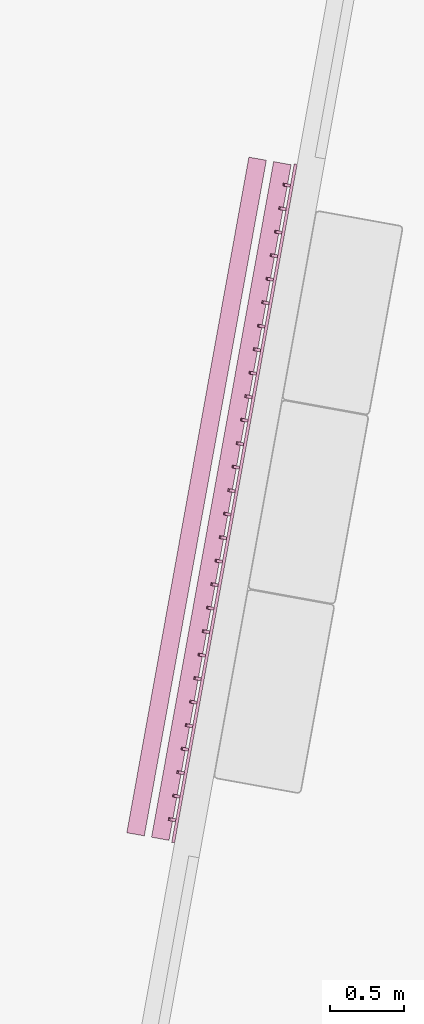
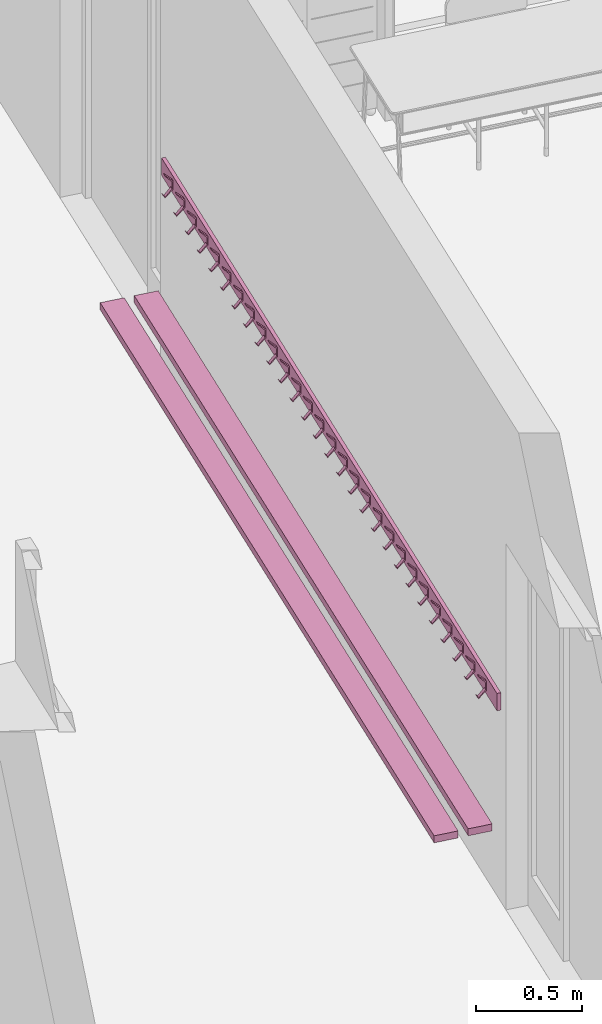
# One storey, part 6 of 79: 2 furnishings.
"""IFC2X3 building model written with IfcOpenShell, lengths in metres."""

from ifc_helpers import new_model, entity, si_unit, converted_unit, derived_unit, money_unit, direction, frame, origin_with_axes, place, context, subcontext, project, spatial, faceted_brep, source, transform, mapped, material, type_object, element, save


model = new_model("IFC2X3")

# Units and contexts
model_context = context("Model", 3, precision=1e-05, world=origin_with_axes(), true_north=direction((0.0, 1.0)))
body_context = subcontext(model_context, "Body", "Model", "MODEL_VIEW")
ifc_project = project(units=[si_unit("LENGTHUNIT", "METRE"), si_unit("AREAUNIT", "SQUARE_METRE"), si_unit("VOLUMEUNIT", "CUBIC_METRE"), converted_unit("PLANEANGLEUNIT", "DEGREE", entity("IfcPlaneAngleMeasure", 0.0174532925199), si_unit("PLANEANGLEUNIT", "RADIAN"), dimensions=[0, 0, 0, 0, 0, 0, 0]), money_unit("CHF"), converted_unit("TIMEUNIT", "Year", entity("IfcTimeMeasure", 31556926.0), si_unit("TIMEUNIT", "SECOND"), dimensions=[0, 0, 1, 0, 0, 0, 0]), si_unit("MASSUNIT", "GRAM", prefix="KILO"), si_unit("THERMODYNAMICTEMPERATUREUNIT", "DEGREE_CELSIUS"), si_unit("LUMINOUSINTENSITYUNIT", "LUMEN"), si_unit("ENERGYUNIT", "JOULE", prefix="MEGA"), derived_unit("THERMALCONDUCTANCEUNIT", [(si_unit("POWERUNIT", "WATT"), 1), (si_unit("LENGTHUNIT", "METRE"), -1), (si_unit("THERMODYNAMICTEMPERATUREUNIT", "KELVIN"), -1)]), derived_unit("SPECIFICHEATCAPACITYUNIT", [(si_unit("ENERGYUNIT", "JOULE"), 1), (si_unit("MASSUNIT", "GRAM", prefix="KILO"), -1), (si_unit("THERMODYNAMICTEMPERATUREUNIT", "KELVIN"), -1)]), derived_unit("MASSDENSITYUNIT", [(si_unit("MASSUNIT", "GRAM", prefix="KILO"), 1), (si_unit("VOLUMEUNIT", "CUBIC_METRE"), -1)])], contexts=[model_context])

# Site, building, storey
site_placement = place(None, frame((0.0, 0.0, 0.0), z_axis=(0.0, 0.0, 1.0), x_axis=(-0.177771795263, -0.984071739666, 0.0)))
site = spatial("IfcSite", under=ifc_project, at=site_placement, Name="Site", CompositionType="ELEMENT")
building_placement = place(site_placement, origin_with_axes())
building = spatial("IfcBuilding", under=site, at=building_placement, Name="Bâtiment", CompositionType="ELEMENT")
storey_placement = place(building_placement, origin_with_axes())
storey = spatial("IfcBuildingStorey", under=building, at=storey_placement, Name="RDC", CompositionType="ELEMENT", Elevation=0.0)

# Furnishings
ifc_material_1 = material(Name="Matériau de construction IFC")
furnishing_element_type_1 = type_object("IfcFurnishingElementType", Name="Râtelier mural 21")
shared_shape_1 = source(origin_with_axes(), body_context, "Body", "Brep", [
    faceted_brep([(-2.33000000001, 0.0, 0.0), (2.33000000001, 0.0, 0.0), (2.33000000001, -0.02, 0.0), (-2.33000000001, -0.02, 0.0), (-2.33000000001, 0.0, 0.1), (2.33000000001, 0.0, 0.1), (2.33000000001, -0.02, 0.1), (-2.33000000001, -0.02, 0.1)], [[[0, 1, 2, 3]], [[1, 0, 4, 5]], [[2, 1, 5, 6]], [[3, 2, 6, 7]], [[0, 3, 7, 4]], [[5, 4, 7, 6]]]),
    faceted_brep([(2.16862068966, -0.06, -0.015), (2.16862068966, -0.02, 0.025), (2.18862068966, -0.02, 0.025), (2.18862068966, -0.06, -0.015), (2.16862068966, -0.07, 0.0), (2.16862068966, -0.0675, 0.0), (2.16862068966, -0.06, -0.01), (2.16862068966, -0.025, 0.03), (2.16862068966, -0.025, 0.07), (2.16862068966, -0.06, 0.11), (2.16862068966, -0.06, 0.115), (2.16862068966, -0.02, 0.075), (2.18862068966, -0.02, 0.075), (2.18862068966, -0.06, 0.115), (2.18862068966, -0.06, 0.11), (2.18862068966, -0.025, 0.07), (2.18862068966, -0.025, 0.03), (2.18862068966, -0.06, -0.01), (2.18862068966, -0.0675, 0.0), (2.18862068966, -0.07, 0.0)], [[[0, 1, 2, 3]], [[0, 4, 5, 6, 7, 8, 9, 10, 11, 1]], [[1, 11, 12, 2]], [[3, 2, 12, 13, 14, 15, 16, 17, 18, 19]], [[4, 0, 3, 19]], [[5, 4, 19, 18]], [[6, 5, 18, 17]], [[7, 6, 17, 16]], [[8, 7, 16, 15]], [[9, 8, 15, 14]], [[10, 9, 14, 13]], [[11, 10, 13, 12]]]),
    faceted_brep([(2.00724137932, -0.06, -0.015), (2.00724137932, -0.02, 0.025), (2.02724137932, -0.02, 0.025), (2.02724137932, -0.06, -0.015), (2.00724137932, -0.07, 0.0), (2.00724137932, -0.0675, 0.0), (2.00724137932, -0.06, -0.01), (2.00724137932, -0.025, 0.03), (2.00724137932, -0.025, 0.07), (2.00724137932, -0.06, 0.11), (2.00724137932, -0.06, 0.115), (2.00724137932, -0.02, 0.075), (2.02724137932, -0.02, 0.075), (2.02724137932, -0.06, 0.115), (2.02724137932, -0.06, 0.11), (2.02724137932, -0.025, 0.07), (2.02724137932, -0.025, 0.03), (2.02724137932, -0.06, -0.01), (2.02724137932, -0.0675, 0.0), (2.02724137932, -0.07, 0.0)], [[[0, 1, 2, 3]], [[0, 4, 5, 6, 7, 8, 9, 10, 11, 1]], [[1, 11, 12, 2]], [[3, 2, 12, 13, 14, 15, 16, 17, 18, 19]], [[4, 0, 3, 19]], [[5, 4, 19, 18]], [[6, 5, 18, 17]], [[7, 6, 17, 16]], [[8, 7, 16, 15]], [[9, 8, 15, 14]], [[10, 9, 14, 13]], [[11, 10, 13, 12]]]),
    faceted_brep([(1.84586206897, -0.06, -0.015), (1.84586206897, -0.02, 0.025), (1.86586206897, -0.02, 0.025), (1.86586206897, -0.06, -0.015), (1.84586206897, -0.07, 0.0), (1.84586206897, -0.0675, 0.0), (1.84586206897, -0.06, -0.01), (1.84586206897, -0.025, 0.03), (1.84586206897, -0.025, 0.07), (1.84586206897, -0.06, 0.11), (1.84586206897, -0.06, 0.115), (1.84586206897, -0.02, 0.075), (1.86586206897, -0.02, 0.075), (1.86586206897, -0.06, 0.115), (1.86586206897, -0.06, 0.11), (1.86586206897, -0.025, 0.07), (1.86586206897, -0.025, 0.03), (1.86586206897, -0.06, -0.01), (1.86586206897, -0.0675, 0.0), (1.86586206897, -0.07, 0.0)], [[[0, 1, 2, 3]], [[0, 4, 5, 6, 7, 8, 9, 10, 11, 1]], [[1, 11, 12, 2]], [[3, 2, 12, 13, 14, 15, 16, 17, 18, 19]], [[4, 0, 3, 19]], [[5, 4, 19, 18]], [[6, 5, 18, 17]], [[7, 6, 17, 16]], [[8, 7, 16, 15]], [[9, 8, 15, 14]], [[10, 9, 14, 13]], [[11, 10, 13, 12]]]),
    faceted_brep([(1.68448275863, -0.06, -0.015), (1.68448275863, -0.02, 0.025), (1.70448275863, -0.02, 0.025), (1.70448275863, -0.06, -0.015), (1.68448275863, -0.07, 0.0), (1.68448275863, -0.0675, 0.0), (1.68448275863, -0.06, -0.01), (1.68448275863, -0.025, 0.03), (1.68448275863, -0.025, 0.07), (1.68448275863, -0.06, 0.11), (1.68448275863, -0.06, 0.115), (1.68448275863, -0.02, 0.075), (1.70448275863, -0.02, 0.075), (1.70448275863, -0.06, 0.115), (1.70448275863, -0.06, 0.11), (1.70448275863, -0.025, 0.07), (1.70448275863, -0.025, 0.03), (1.70448275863, -0.06, -0.01), (1.70448275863, -0.0675, 0.0), (1.70448275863, -0.07, 0.0)], [[[0, 1, 2, 3]], [[0, 4, 5, 6, 7, 8, 9, 10, 11, 1]], [[1, 11, 12, 2]], [[3, 2, 12, 13, 14, 15, 16, 17, 18, 19]], [[4, 0, 3, 19]], [[5, 4, 19, 18]], [[6, 5, 18, 17]], [[7, 6, 17, 16]], [[8, 7, 16, 15]], [[9, 8, 15, 14]], [[10, 9, 14, 13]], [[11, 10, 13, 12]]]),
    faceted_brep([(1.52310344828, -0.06, -0.015), (1.52310344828, -0.02, 0.025), (1.54310344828, -0.02, 0.025), (1.54310344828, -0.06, -0.015), (1.52310344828, -0.07, 0.0), (1.52310344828, -0.0675, 0.0), (1.52310344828, -0.06, -0.01), (1.52310344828, -0.025, 0.03), (1.52310344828, -0.025, 0.07), (1.52310344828, -0.06, 0.11), (1.52310344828, -0.06, 0.115), (1.52310344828, -0.02, 0.075), (1.54310344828, -0.02, 0.075), (1.54310344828, -0.06, 0.115), (1.54310344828, -0.06, 0.11), (1.54310344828, -0.025, 0.07), (1.54310344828, -0.025, 0.03), (1.54310344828, -0.06, -0.01), (1.54310344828, -0.0675, 0.0), (1.54310344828, -0.07, 0.0)], [[[0, 1, 2, 3]], [[0, 4, 5, 6, 7, 8, 9, 10, 11, 1]], [[1, 11, 12, 2]], [[3, 2, 12, 13, 14, 15, 16, 17, 18, 19]], [[4, 0, 3, 19]], [[5, 4, 19, 18]], [[6, 5, 18, 17]], [[7, 6, 17, 16]], [[8, 7, 16, 15]], [[9, 8, 15, 14]], [[10, 9, 14, 13]], [[11, 10, 13, 12]]]),
    faceted_brep([(1.36172413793, -0.06, -0.015), (1.36172413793, -0.02, 0.025), (1.38172413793, -0.02, 0.025), (1.38172413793, -0.06, -0.015), (1.36172413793, -0.07, 0.0), (1.36172413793, -0.0675, 0.0), (1.36172413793, -0.06, -0.01), (1.36172413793, -0.025, 0.03), (1.36172413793, -0.025, 0.07), (1.36172413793, -0.06, 0.11), (1.36172413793, -0.06, 0.115), (1.36172413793, -0.02, 0.075), (1.38172413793, -0.02, 0.075), (1.38172413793, -0.06, 0.115), (1.38172413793, -0.06, 0.11), (1.38172413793, -0.025, 0.07), (1.38172413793, -0.025, 0.03), (1.38172413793, -0.06, -0.01), (1.38172413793, -0.0675, 0.0), (1.38172413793, -0.07, 0.0)], [[[0, 1, 2, 3]], [[0, 4, 5, 6, 7, 8, 9, 10, 11, 1]], [[1, 11, 12, 2]], [[3, 2, 12, 13, 14, 15, 16, 17, 18, 19]], [[4, 0, 3, 19]], [[5, 4, 19, 18]], [[6, 5, 18, 17]], [[7, 6, 17, 16]], [[8, 7, 16, 15]], [[9, 8, 15, 14]], [[10, 9, 14, 13]], [[11, 10, 13, 12]]]),
    faceted_brep([(1.20034482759, -0.06, -0.015), (1.20034482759, -0.02, 0.025), (1.22034482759, -0.02, 0.025), (1.22034482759, -0.06, -0.015), (1.20034482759, -0.07, 0.0), (1.20034482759, -0.0675, 0.0), (1.20034482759, -0.06, -0.01), (1.20034482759, -0.025, 0.03), (1.20034482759, -0.025, 0.07), (1.20034482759, -0.06, 0.11), (1.20034482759, -0.06, 0.115), (1.20034482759, -0.02, 0.075), (1.22034482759, -0.02, 0.075), (1.22034482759, -0.06, 0.115), (1.22034482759, -0.06, 0.11), (1.22034482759, -0.025, 0.07), (1.22034482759, -0.025, 0.03), (1.22034482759, -0.06, -0.01), (1.22034482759, -0.0675, 0.0), (1.22034482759, -0.07, 0.0)], [[[0, 1, 2, 3]], [[0, 4, 5, 6, 7, 8, 9, 10, 11, 1]], [[1, 11, 12, 2]], [[3, 2, 12, 13, 14, 15, 16, 17, 18, 19]], [[4, 0, 3, 19]], [[5, 4, 19, 18]], [[6, 5, 18, 17]], [[7, 6, 17, 16]], [[8, 7, 16, 15]], [[9, 8, 15, 14]], [[10, 9, 14, 13]], [[11, 10, 13, 12]]]),
    faceted_brep([(1.03896551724, -0.06, -0.015), (1.03896551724, -0.02, 0.025), (1.05896551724, -0.02, 0.025), (1.05896551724, -0.06, -0.015), (1.03896551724, -0.07, 0.0), (1.03896551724, -0.0675, 0.0), (1.03896551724, -0.06, -0.01), (1.03896551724, -0.025, 0.03), (1.03896551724, -0.025, 0.07), (1.03896551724, -0.06, 0.11), (1.03896551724, -0.06, 0.115), (1.03896551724, -0.02, 0.075), (1.05896551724, -0.02, 0.075), (1.05896551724, -0.06, 0.115), (1.05896551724, -0.06, 0.11), (1.05896551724, -0.025, 0.07), (1.05896551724, -0.025, 0.03), (1.05896551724, -0.06, -0.01), (1.05896551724, -0.0675, 0.0), (1.05896551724, -0.07, 0.0)], [[[0, 1, 2, 3]], [[0, 4, 5, 6, 7, 8, 9, 10, 11, 1]], [[1, 11, 12, 2]], [[3, 2, 12, 13, 14, 15, 16, 17, 18, 19]], [[4, 0, 3, 19]], [[5, 4, 19, 18]], [[6, 5, 18, 17]], [[7, 6, 17, 16]], [[8, 7, 16, 15]], [[9, 8, 15, 14]], [[10, 9, 14, 13]], [[11, 10, 13, 12]]]),
    faceted_brep([(0.877586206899, -0.06, -0.015), (0.877586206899, -0.02, 0.025), (0.897586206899, -0.02, 0.025), (0.897586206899, -0.06, -0.015), (0.877586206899, -0.07, 0.0), (0.877586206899, -0.0675, 0.0), (0.877586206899, -0.06, -0.01), (0.877586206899, -0.025, 0.03), (0.877586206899, -0.025, 0.07), (0.877586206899, -0.06, 0.11), (0.877586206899, -0.06, 0.115), (0.877586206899, -0.02, 0.075), (0.897586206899, -0.02, 0.075), (0.897586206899, -0.06, 0.115), (0.897586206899, -0.06, 0.11), (0.897586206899, -0.025, 0.07), (0.897586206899, -0.025, 0.03), (0.897586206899, -0.06, -0.01), (0.897586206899, -0.0675, 0.0), (0.897586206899, -0.07, 0.0)], [[[0, 1, 2, 3]], [[0, 4, 5, 6, 7, 8, 9, 10, 11, 1]], [[1, 11, 12, 2]], [[3, 2, 12, 13, 14, 15, 16, 17, 18, 19]], [[4, 0, 3, 19]], [[5, 4, 19, 18]], [[6, 5, 18, 17]], [[7, 6, 17, 16]], [[8, 7, 16, 15]], [[9, 8, 15, 14]], [[10, 9, 14, 13]], [[11, 10, 13, 12]]]),
    faceted_brep([(0.716206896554, -0.06, -0.015), (0.716206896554, -0.02, 0.025), (0.736206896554, -0.02, 0.025), (0.736206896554, -0.06, -0.015), (0.716206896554, -0.07, 0.0), (0.716206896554, -0.0675, 0.0), (0.716206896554, -0.06, -0.01), (0.716206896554, -0.025, 0.03), (0.716206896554, -0.025, 0.07), (0.716206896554, -0.06, 0.11), (0.716206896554, -0.06, 0.115), (0.716206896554, -0.02, 0.075), (0.736206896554, -0.02, 0.075), (0.736206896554, -0.06, 0.115), (0.736206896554, -0.06, 0.11), (0.736206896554, -0.025, 0.07), (0.736206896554, -0.025, 0.03), (0.736206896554, -0.06, -0.01), (0.736206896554, -0.0675, 0.0), (0.736206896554, -0.07, 0.0)], [[[0, 1, 2, 3]], [[0, 4, 5, 6, 7, 8, 9, 10, 11, 1]], [[1, 11, 12, 2]], [[3, 2, 12, 13, 14, 15, 16, 17, 18, 19]], [[4, 0, 3, 19]], [[5, 4, 19, 18]], [[6, 5, 18, 17]], [[7, 6, 17, 16]], [[8, 7, 16, 15]], [[9, 8, 15, 14]], [[10, 9, 14, 13]], [[11, 10, 13, 12]]]),
    faceted_brep([(0.554827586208, -0.06, -0.015), (0.554827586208, -0.02, 0.025), (0.574827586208, -0.02, 0.025), (0.574827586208, -0.06, -0.015), (0.554827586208, -0.07, 0.0), (0.554827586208, -0.0675, 0.0), (0.554827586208, -0.06, -0.01), (0.554827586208, -0.025, 0.03), (0.554827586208, -0.025, 0.07), (0.554827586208, -0.06, 0.11), (0.554827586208, -0.06, 0.115), (0.554827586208, -0.02, 0.075), (0.574827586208, -0.02, 0.075), (0.574827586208, -0.06, 0.115), (0.574827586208, -0.06, 0.11), (0.574827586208, -0.025, 0.07), (0.574827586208, -0.025, 0.03), (0.574827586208, -0.06, -0.01), (0.574827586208, -0.0675, 0.0), (0.574827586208, -0.07, 0.0)], [[[0, 1, 2, 3]], [[0, 4, 5, 6, 7, 8, 9, 10, 11, 1]], [[1, 11, 12, 2]], [[3, 2, 12, 13, 14, 15, 16, 17, 18, 19]], [[4, 0, 3, 19]], [[5, 4, 19, 18]], [[6, 5, 18, 17]], [[7, 6, 17, 16]], [[8, 7, 16, 15]], [[9, 8, 15, 14]], [[10, 9, 14, 13]], [[11, 10, 13, 12]]]),
    faceted_brep([(0.393448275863, -0.06, -0.015), (0.393448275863, -0.02, 0.025), (0.413448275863, -0.02, 0.025), (0.413448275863, -0.06, -0.015), (0.393448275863, -0.07, 0.0), (0.393448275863, -0.0675, 0.0), (0.393448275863, -0.06, -0.01), (0.393448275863, -0.025, 0.03), (0.393448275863, -0.025, 0.07), (0.393448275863, -0.06, 0.11), (0.393448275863, -0.06, 0.115), (0.393448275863, -0.02, 0.075), (0.413448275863, -0.02, 0.075), (0.413448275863, -0.06, 0.115), (0.413448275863, -0.06, 0.11), (0.413448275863, -0.025, 0.07), (0.413448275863, -0.025, 0.03), (0.413448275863, -0.06, -0.01), (0.413448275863, -0.0675, 0.0), (0.413448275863, -0.07, 0.0)], [[[0, 1, 2, 3]], [[0, 4, 5, 6, 7, 8, 9, 10, 11, 1]], [[1, 11, 12, 2]], [[3, 2, 12, 13, 14, 15, 16, 17, 18, 19]], [[4, 0, 3, 19]], [[5, 4, 19, 18]], [[6, 5, 18, 17]], [[7, 6, 17, 16]], [[8, 7, 16, 15]], [[9, 8, 15, 14]], [[10, 9, 14, 13]], [[11, 10, 13, 12]]]),
    faceted_brep([(0.232068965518, -0.06, -0.015), (0.232068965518, -0.02, 0.025), (0.252068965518, -0.02, 0.025), (0.252068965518, -0.06, -0.015), (0.232068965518, -0.07, 0.0), (0.232068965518, -0.0675, 0.0), (0.232068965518, -0.06, -0.01), (0.232068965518, -0.025, 0.03), (0.232068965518, -0.025, 0.07), (0.232068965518, -0.06, 0.11), (0.232068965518, -0.06, 0.115), (0.232068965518, -0.02, 0.075), (0.252068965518, -0.02, 0.075), (0.252068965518, -0.06, 0.115), (0.252068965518, -0.06, 0.11), (0.252068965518, -0.025, 0.07), (0.252068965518, -0.025, 0.03), (0.252068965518, -0.06, -0.01), (0.252068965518, -0.0675, 0.0), (0.252068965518, -0.07, 0.0)], [[[0, 1, 2, 3]], [[0, 4, 5, 6, 7, 8, 9, 10, 11, 1]], [[1, 11, 12, 2]], [[3, 2, 12, 13, 14, 15, 16, 17, 18, 19]], [[4, 0, 3, 19]], [[5, 4, 19, 18]], [[6, 5, 18, 17]], [[7, 6, 17, 16]], [[8, 7, 16, 15]], [[9, 8, 15, 14]], [[10, 9, 14, 13]], [[11, 10, 13, 12]]]),
    faceted_brep([(0.0706896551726, -0.06, -0.015), (0.0706896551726, -0.02, 0.025), (0.0906896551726, -0.02, 0.025), (0.0906896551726, -0.06, -0.015), (0.0706896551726, -0.07, 0.0), (0.0706896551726, -0.0675, 0.0), (0.0706896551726, -0.06, -0.01), (0.0706896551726, -0.025, 0.03), (0.0706896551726, -0.025, 0.07), (0.0706896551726, -0.06, 0.11), (0.0706896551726, -0.06, 0.115), (0.0706896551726, -0.02, 0.075), (0.0906896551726, -0.02, 0.075), (0.0906896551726, -0.06, 0.115), (0.0906896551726, -0.06, 0.11), (0.0906896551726, -0.025, 0.07), (0.0906896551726, -0.025, 0.03), (0.0906896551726, -0.06, -0.01), (0.0906896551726, -0.0675, 0.0), (0.0906896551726, -0.07, 0.0)], [[[0, 1, 2, 3]], [[0, 4, 5, 6, 7, 8, 9, 10, 11, 1]], [[1, 11, 12, 2]], [[3, 2, 12, 13, 14, 15, 16, 17, 18, 19]], [[4, 0, 3, 19]], [[5, 4, 19, 18]], [[6, 5, 18, 17]], [[7, 6, 17, 16]], [[8, 7, 16, 15]], [[9, 8, 15, 14]], [[10, 9, 14, 13]], [[11, 10, 13, 12]]]),
    faceted_brep([(-0.0906896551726, -0.06, -0.015), (-0.0906896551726, -0.02, 0.025), (-0.0706896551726, -0.02, 0.025), (-0.0706896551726, -0.06, -0.015), (-0.0906896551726, -0.07, 0.0), (-0.0906896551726, -0.0675, 0.0), (-0.0906896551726, -0.06, -0.01), (-0.0906896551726, -0.025, 0.03), (-0.0906896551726, -0.025, 0.07), (-0.0906896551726, -0.06, 0.11), (-0.0906896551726, -0.06, 0.115), (-0.0906896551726, -0.02, 0.075), (-0.0706896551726, -0.02, 0.075), (-0.0706896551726, -0.06, 0.115), (-0.0706896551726, -0.06, 0.11), (-0.0706896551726, -0.025, 0.07), (-0.0706896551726, -0.025, 0.03), (-0.0706896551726, -0.06, -0.01), (-0.0706896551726, -0.0675, 0.0), (-0.0706896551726, -0.07, 0.0)], [[[0, 1, 2, 3]], [[0, 4, 5, 6, 7, 8, 9, 10, 11, 1]], [[1, 11, 12, 2]], [[3, 2, 12, 13, 14, 15, 16, 17, 18, 19]], [[4, 0, 3, 19]], [[5, 4, 19, 18]], [[6, 5, 18, 17]], [[7, 6, 17, 16]], [[8, 7, 16, 15]], [[9, 8, 15, 14]], [[10, 9, 14, 13]], [[11, 10, 13, 12]]]),
    faceted_brep([(-0.252068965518, -0.06, -0.015), (-0.252068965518, -0.02, 0.025), (-0.232068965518, -0.02, 0.025), (-0.232068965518, -0.06, -0.015), (-0.252068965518, -0.07, 0.0), (-0.252068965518, -0.0675, 0.0), (-0.252068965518, -0.06, -0.01), (-0.252068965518, -0.025, 0.03), (-0.252068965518, -0.025, 0.07), (-0.252068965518, -0.06, 0.11), (-0.252068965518, -0.06, 0.115), (-0.252068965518, -0.02, 0.075), (-0.232068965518, -0.02, 0.075), (-0.232068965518, -0.06, 0.115), (-0.232068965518, -0.06, 0.11), (-0.232068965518, -0.025, 0.07), (-0.232068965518, -0.025, 0.03), (-0.232068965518, -0.06, -0.01), (-0.232068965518, -0.0675, 0.0), (-0.232068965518, -0.07, 0.0)], [[[0, 1, 2, 3]], [[0, 4, 5, 6, 7, 8, 9, 10, 11, 1]], [[1, 11, 12, 2]], [[3, 2, 12, 13, 14, 15, 16, 17, 18, 19]], [[4, 0, 3, 19]], [[5, 4, 19, 18]], [[6, 5, 18, 17]], [[7, 6, 17, 16]], [[8, 7, 16, 15]], [[9, 8, 15, 14]], [[10, 9, 14, 13]], [[11, 10, 13, 12]]]),
    faceted_brep([(-0.413448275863, -0.06, -0.015), (-0.413448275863, -0.02, 0.025), (-0.393448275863, -0.02, 0.025), (-0.393448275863, -0.06, -0.015), (-0.413448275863, -0.07, 0.0), (-0.413448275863, -0.0675, 0.0), (-0.413448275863, -0.06, -0.01), (-0.413448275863, -0.025, 0.03), (-0.413448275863, -0.025, 0.07), (-0.413448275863, -0.06, 0.11), (-0.413448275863, -0.06, 0.115), (-0.413448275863, -0.02, 0.075), (-0.393448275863, -0.02, 0.075), (-0.393448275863, -0.06, 0.115), (-0.393448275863, -0.06, 0.11), (-0.393448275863, -0.025, 0.07), (-0.393448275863, -0.025, 0.03), (-0.393448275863, -0.06, -0.01), (-0.393448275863, -0.0675, 0.0), (-0.393448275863, -0.07, 0.0)], [[[0, 1, 2, 3]], [[0, 4, 5, 6, 7, 8, 9, 10, 11, 1]], [[1, 11, 12, 2]], [[3, 2, 12, 13, 14, 15, 16, 17, 18, 19]], [[4, 0, 3, 19]], [[5, 4, 19, 18]], [[6, 5, 18, 17]], [[7, 6, 17, 16]], [[8, 7, 16, 15]], [[9, 8, 15, 14]], [[10, 9, 14, 13]], [[11, 10, 13, 12]]]),
    faceted_brep([(-0.574827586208, -0.06, -0.015), (-0.574827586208, -0.02, 0.025), (-0.554827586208, -0.02, 0.025), (-0.554827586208, -0.06, -0.015), (-0.574827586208, -0.07, 0.0), (-0.574827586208, -0.0675, 0.0), (-0.574827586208, -0.06, -0.01), (-0.574827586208, -0.025, 0.03), (-0.574827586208, -0.025, 0.07), (-0.574827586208, -0.06, 0.11), (-0.574827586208, -0.06, 0.115), (-0.574827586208, -0.02, 0.075), (-0.554827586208, -0.02, 0.075), (-0.554827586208, -0.06, 0.115), (-0.554827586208, -0.06, 0.11), (-0.554827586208, -0.025, 0.07), (-0.554827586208, -0.025, 0.03), (-0.554827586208, -0.06, -0.01), (-0.554827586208, -0.0675, 0.0), (-0.554827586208, -0.07, 0.0)], [[[0, 1, 2, 3]], [[0, 4, 5, 6, 7, 8, 9, 10, 11, 1]], [[1, 11, 12, 2]], [[3, 2, 12, 13, 14, 15, 16, 17, 18, 19]], [[4, 0, 3, 19]], [[5, 4, 19, 18]], [[6, 5, 18, 17]], [[7, 6, 17, 16]], [[8, 7, 16, 15]], [[9, 8, 15, 14]], [[10, 9, 14, 13]], [[11, 10, 13, 12]]]),
    faceted_brep([(-0.736206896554, -0.06, -0.015), (-0.736206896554, -0.02, 0.025), (-0.716206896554, -0.02, 0.025), (-0.716206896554, -0.06, -0.015), (-0.736206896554, -0.07, 0.0), (-0.736206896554, -0.0675, 0.0), (-0.736206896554, -0.06, -0.01), (-0.736206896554, -0.025, 0.03), (-0.736206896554, -0.025, 0.07), (-0.736206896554, -0.06, 0.11), (-0.736206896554, -0.06, 0.115), (-0.736206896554, -0.02, 0.075), (-0.716206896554, -0.02, 0.075), (-0.716206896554, -0.06, 0.115), (-0.716206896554, -0.06, 0.11), (-0.716206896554, -0.025, 0.07), (-0.716206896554, -0.025, 0.03), (-0.716206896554, -0.06, -0.01), (-0.716206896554, -0.0675, 0.0), (-0.716206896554, -0.07, 0.0)], [[[0, 1, 2, 3]], [[0, 4, 5, 6, 7, 8, 9, 10, 11, 1]], [[1, 11, 12, 2]], [[3, 2, 12, 13, 14, 15, 16, 17, 18, 19]], [[4, 0, 3, 19]], [[5, 4, 19, 18]], [[6, 5, 18, 17]], [[7, 6, 17, 16]], [[8, 7, 16, 15]], [[9, 8, 15, 14]], [[10, 9, 14, 13]], [[11, 10, 13, 12]]]),
    faceted_brep([(-0.897586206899, -0.06, -0.015), (-0.897586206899, -0.02, 0.025), (-0.877586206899, -0.02, 0.025), (-0.877586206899, -0.06, -0.015), (-0.897586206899, -0.07, 0.0), (-0.897586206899, -0.0675, 0.0), (-0.897586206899, -0.06, -0.01), (-0.897586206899, -0.025, 0.03), (-0.897586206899, -0.025, 0.07), (-0.897586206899, -0.06, 0.11), (-0.897586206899, -0.06, 0.115), (-0.897586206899, -0.02, 0.075), (-0.877586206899, -0.02, 0.075), (-0.877586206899, -0.06, 0.115), (-0.877586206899, -0.06, 0.11), (-0.877586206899, -0.025, 0.07), (-0.877586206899, -0.025, 0.03), (-0.877586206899, -0.06, -0.01), (-0.877586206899, -0.0675, 0.0), (-0.877586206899, -0.07, 0.0)], [[[0, 1, 2, 3]], [[0, 4, 5, 6, 7, 8, 9, 10, 11, 1]], [[1, 11, 12, 2]], [[3, 2, 12, 13, 14, 15, 16, 17, 18, 19]], [[4, 0, 3, 19]], [[5, 4, 19, 18]], [[6, 5, 18, 17]], [[7, 6, 17, 16]], [[8, 7, 16, 15]], [[9, 8, 15, 14]], [[10, 9, 14, 13]], [[11, 10, 13, 12]]]),
    faceted_brep([(-1.05896551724, -0.06, -0.015), (-1.05896551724, -0.02, 0.025), (-1.03896551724, -0.02, 0.025), (-1.03896551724, -0.06, -0.015), (-1.05896551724, -0.07, 0.0), (-1.05896551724, -0.0675, 0.0), (-1.05896551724, -0.06, -0.01), (-1.05896551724, -0.025, 0.03), (-1.05896551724, -0.025, 0.07), (-1.05896551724, -0.06, 0.11), (-1.05896551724, -0.06, 0.115), (-1.05896551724, -0.02, 0.075), (-1.03896551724, -0.02, 0.075), (-1.03896551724, -0.06, 0.115), (-1.03896551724, -0.06, 0.11), (-1.03896551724, -0.025, 0.07), (-1.03896551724, -0.025, 0.03), (-1.03896551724, -0.06, -0.01), (-1.03896551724, -0.0675, 0.0), (-1.03896551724, -0.07, 0.0)], [[[0, 1, 2, 3]], [[0, 4, 5, 6, 7, 8, 9, 10, 11, 1]], [[1, 11, 12, 2]], [[3, 2, 12, 13, 14, 15, 16, 17, 18, 19]], [[4, 0, 3, 19]], [[5, 4, 19, 18]], [[6, 5, 18, 17]], [[7, 6, 17, 16]], [[8, 7, 16, 15]], [[9, 8, 15, 14]], [[10, 9, 14, 13]], [[11, 10, 13, 12]]]),
    faceted_brep([(-1.22034482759, -0.06, -0.015), (-1.22034482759, -0.02, 0.025), (-1.20034482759, -0.02, 0.025), (-1.20034482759, -0.06, -0.015), (-1.22034482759, -0.07, 0.0), (-1.22034482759, -0.0675, 0.0), (-1.22034482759, -0.06, -0.01), (-1.22034482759, -0.025, 0.03), (-1.22034482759, -0.025, 0.07), (-1.22034482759, -0.06, 0.11), (-1.22034482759, -0.06, 0.115), (-1.22034482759, -0.02, 0.075), (-1.20034482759, -0.02, 0.075), (-1.20034482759, -0.06, 0.115), (-1.20034482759, -0.06, 0.11), (-1.20034482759, -0.025, 0.07), (-1.20034482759, -0.025, 0.03), (-1.20034482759, -0.06, -0.01), (-1.20034482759, -0.0675, 0.0), (-1.20034482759, -0.07, 0.0)], [[[0, 1, 2, 3]], [[0, 4, 5, 6, 7, 8, 9, 10, 11, 1]], [[1, 11, 12, 2]], [[3, 2, 12, 13, 14, 15, 16, 17, 18, 19]], [[4, 0, 3, 19]], [[5, 4, 19, 18]], [[6, 5, 18, 17]], [[7, 6, 17, 16]], [[8, 7, 16, 15]], [[9, 8, 15, 14]], [[10, 9, 14, 13]], [[11, 10, 13, 12]]]),
    faceted_brep([(-1.38172413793, -0.06, -0.015), (-1.38172413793, -0.02, 0.025), (-1.36172413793, -0.02, 0.025), (-1.36172413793, -0.06, -0.015), (-1.38172413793, -0.07, 0.0), (-1.38172413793, -0.0675, 0.0), (-1.38172413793, -0.06, -0.01), (-1.38172413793, -0.025, 0.03), (-1.38172413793, -0.025, 0.07), (-1.38172413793, -0.06, 0.11), (-1.38172413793, -0.06, 0.115), (-1.38172413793, -0.02, 0.075), (-1.36172413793, -0.02, 0.075), (-1.36172413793, -0.06, 0.115), (-1.36172413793, -0.06, 0.11), (-1.36172413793, -0.025, 0.07), (-1.36172413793, -0.025, 0.03), (-1.36172413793, -0.06, -0.01), (-1.36172413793, -0.0675, 0.0), (-1.36172413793, -0.07, 0.0)], [[[0, 1, 2, 3]], [[0, 4, 5, 6, 7, 8, 9, 10, 11, 1]], [[1, 11, 12, 2]], [[3, 2, 12, 13, 14, 15, 16, 17, 18, 19]], [[4, 0, 3, 19]], [[5, 4, 19, 18]], [[6, 5, 18, 17]], [[7, 6, 17, 16]], [[8, 7, 16, 15]], [[9, 8, 15, 14]], [[10, 9, 14, 13]], [[11, 10, 13, 12]]]),
    faceted_brep([(-1.54310344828, -0.06, -0.015), (-1.54310344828, -0.02, 0.025), (-1.52310344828, -0.02, 0.025), (-1.52310344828, -0.06, -0.015), (-1.54310344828, -0.07, 0.0), (-1.54310344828, -0.0675, 0.0), (-1.54310344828, -0.06, -0.01), (-1.54310344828, -0.025, 0.03), (-1.54310344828, -0.025, 0.07), (-1.54310344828, -0.06, 0.11), (-1.54310344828, -0.06, 0.115), (-1.54310344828, -0.02, 0.075), (-1.52310344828, -0.02, 0.075), (-1.52310344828, -0.06, 0.115), (-1.52310344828, -0.06, 0.11), (-1.52310344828, -0.025, 0.07), (-1.52310344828, -0.025, 0.03), (-1.52310344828, -0.06, -0.01), (-1.52310344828, -0.0675, 0.0), (-1.52310344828, -0.07, 0.0)], [[[0, 1, 2, 3]], [[0, 4, 5, 6, 7, 8, 9, 10, 11, 1]], [[1, 11, 12, 2]], [[3, 2, 12, 13, 14, 15, 16, 17, 18, 19]], [[4, 0, 3, 19]], [[5, 4, 19, 18]], [[6, 5, 18, 17]], [[7, 6, 17, 16]], [[8, 7, 16, 15]], [[9, 8, 15, 14]], [[10, 9, 14, 13]], [[11, 10, 13, 12]]]),
    faceted_brep([(-1.70448275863, -0.06, -0.015), (-1.70448275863, -0.02, 0.025), (-1.68448275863, -0.02, 0.025), (-1.68448275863, -0.06, -0.015), (-1.70448275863, -0.07, 0.0), (-1.70448275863, -0.0675, 0.0), (-1.70448275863, -0.06, -0.01), (-1.70448275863, -0.025, 0.03), (-1.70448275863, -0.025, 0.07), (-1.70448275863, -0.06, 0.11), (-1.70448275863, -0.06, 0.115), (-1.70448275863, -0.02, 0.075), (-1.68448275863, -0.02, 0.075), (-1.68448275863, -0.06, 0.115), (-1.68448275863, -0.06, 0.11), (-1.68448275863, -0.025, 0.07), (-1.68448275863, -0.025, 0.03), (-1.68448275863, -0.06, -0.01), (-1.68448275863, -0.0675, 0.0), (-1.68448275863, -0.07, 0.0)], [[[0, 1, 2, 3]], [[0, 4, 5, 6, 7, 8, 9, 10, 11, 1]], [[1, 11, 12, 2]], [[3, 2, 12, 13, 14, 15, 16, 17, 18, 19]], [[4, 0, 3, 19]], [[5, 4, 19, 18]], [[6, 5, 18, 17]], [[7, 6, 17, 16]], [[8, 7, 16, 15]], [[9, 8, 15, 14]], [[10, 9, 14, 13]], [[11, 10, 13, 12]]]),
    faceted_brep([(-1.86586206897, -0.06, -0.015), (-1.86586206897, -0.02, 0.025), (-1.84586206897, -0.02, 0.025), (-1.84586206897, -0.06, -0.015), (-1.86586206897, -0.07, 0.0), (-1.86586206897, -0.0675, 0.0), (-1.86586206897, -0.06, -0.01), (-1.86586206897, -0.025, 0.03), (-1.86586206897, -0.025, 0.07), (-1.86586206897, -0.06, 0.11), (-1.86586206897, -0.06, 0.115), (-1.86586206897, -0.02, 0.075), (-1.84586206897, -0.02, 0.075), (-1.84586206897, -0.06, 0.115), (-1.84586206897, -0.06, 0.11), (-1.84586206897, -0.025, 0.07), (-1.84586206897, -0.025, 0.03), (-1.84586206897, -0.06, -0.01), (-1.84586206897, -0.0675, 0.0), (-1.84586206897, -0.07, 0.0)], [[[0, 1, 2, 3]], [[0, 4, 5, 6, 7, 8, 9, 10, 11, 1]], [[1, 11, 12, 2]], [[3, 2, 12, 13, 14, 15, 16, 17, 18, 19]], [[4, 0, 3, 19]], [[5, 4, 19, 18]], [[6, 5, 18, 17]], [[7, 6, 17, 16]], [[8, 7, 16, 15]], [[9, 8, 15, 14]], [[10, 9, 14, 13]], [[11, 10, 13, 12]]]),
    faceted_brep([(-2.02724137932, -0.06, -0.015), (-2.02724137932, -0.02, 0.025), (-2.00724137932, -0.02, 0.025), (-2.00724137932, -0.06, -0.015), (-2.02724137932, -0.07, 0.0), (-2.02724137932, -0.0675, 0.0), (-2.02724137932, -0.06, -0.01), (-2.02724137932, -0.025, 0.03), (-2.02724137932, -0.025, 0.07), (-2.02724137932, -0.06, 0.11), (-2.02724137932, -0.06, 0.115), (-2.02724137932, -0.02, 0.075), (-2.00724137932, -0.02, 0.075), (-2.00724137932, -0.06, 0.115), (-2.00724137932, -0.06, 0.11), (-2.00724137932, -0.025, 0.07), (-2.00724137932, -0.025, 0.03), (-2.00724137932, -0.06, -0.01), (-2.00724137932, -0.0675, 0.0), (-2.00724137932, -0.07, 0.0)], [[[0, 1, 2, 3]], [[0, 4, 5, 6, 7, 8, 9, 10, 11, 1]], [[1, 11, 12, 2]], [[3, 2, 12, 13, 14, 15, 16, 17, 18, 19]], [[4, 0, 3, 19]], [[5, 4, 19, 18]], [[6, 5, 18, 17]], [[7, 6, 17, 16]], [[8, 7, 16, 15]], [[9, 8, 15, 14]], [[10, 9, 14, 13]], [[11, 10, 13, 12]]]),
    faceted_brep([(-2.18862068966, -0.06, -0.015), (-2.18862068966, -0.02, 0.025), (-2.16862068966, -0.02, 0.025), (-2.16862068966, -0.06, -0.015), (-2.18862068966, -0.07, 0.0), (-2.18862068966, -0.0675, 0.0), (-2.18862068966, -0.06, -0.01), (-2.18862068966, -0.025, 0.03), (-2.18862068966, -0.025, 0.07), (-2.18862068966, -0.06, 0.11), (-2.18862068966, -0.06, 0.115), (-2.18862068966, -0.02, 0.075), (-2.16862068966, -0.02, 0.075), (-2.16862068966, -0.06, 0.115), (-2.16862068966, -0.06, 0.11), (-2.16862068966, -0.025, 0.07), (-2.16862068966, -0.025, 0.03), (-2.16862068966, -0.06, -0.01), (-2.16862068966, -0.0675, 0.0), (-2.16862068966, -0.07, 0.0)], [[[0, 1, 2, 3]], [[0, 4, 5, 6, 7, 8, 9, 10, 11, 1]], [[1, 11, 12, 2]], [[3, 2, 12, 13, 14, 15, 16, 17, 18, 19]], [[4, 0, 3, 19]], [[5, 4, 19, 18]], [[6, 5, 18, 17]], [[7, 6, 17, 16]], [[8, 7, 16, 15]], [[9, 8, 15, 14]], [[10, 9, 14, 13]], [[11, 10, 13, 12]]]),
])
furnishing_1_placement = place(storey_placement, frame((151.019841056, -156.627251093, 1.1), z_axis=(0.0, 0.0, 1.0), x_axis=(1.0, 0.0, 0.0)))
element("IfcFurnishingElement", 1, at=furnishing_1_placement, inside=storey, type_object=furnishing_element_type_1, material=ifc_material_1, Name="pateres-couloir", ObjectType="SYSTEM_FURNITURE", context=body_context, shape_type="MappedRepresentation", body=[
    mapped(shared_shape_1, transform((0.0, 0.0, 0.0))),
])
ifc_material_2 = material(Name="_Bois contreplaqué")
furnishing_element_type_2 = type_object("IfcFurnishingElementType", Name="Banc-couloir")
shared_shape_2 = source(origin_with_axes(), body_context, "Body", "Brep", [
    faceted_brep([(0.0, 0.0, 0.38), (2.3200000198, 0.0, 0.38), (2.3200000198, 0.0, 0.42), (0.0, 0.0, 0.42), (0.0, 0.12, 0.38), (2.3200000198, 0.12, 0.38), (2.3200000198, 0.12, 0.42), (0.0, 0.12, 0.42)], [[[0, 1, 2, 3]], [[0, 4, 5, 1]], [[1, 5, 6, 2]], [[3, 2, 6, 7]], [[4, 0, 3, 7]], [[5, 4, 7, 6]]]),
    faceted_brep([(0.0, 0.17, 0.38), (2.3200000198, 0.17, 0.38), (2.3200000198, 0.17, 0.42), (0.0, 0.17, 0.42), (0.0, 0.29, 0.38), (2.3200000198, 0.29, 0.38), (2.3200000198, 0.29, 0.42), (0.0, 0.29, 0.42)], [[[0, 1, 2, 3]], [[0, 4, 5, 1]], [[1, 5, 6, 2]], [[3, 2, 6, 7]], [[4, 0, 3, 7]], [[5, 4, 7, 6]]]),
    faceted_brep([(2.3199999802, 0.0, 0.38), (4.64, 0.0, 0.38), (4.64, 0.0, 0.42), (2.3199999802, 0.0, 0.42), (2.3199999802, 0.12, 0.38), (4.64, 0.12, 0.38), (4.64, 0.12, 0.42), (2.3199999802, 0.12, 0.42)], [[[0, 1, 2, 3]], [[0, 4, 5, 1]], [[1, 5, 6, 2]], [[3, 2, 6, 7]], [[4, 0, 3, 7]], [[5, 4, 7, 6]]]),
    faceted_brep([(2.3199999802, 0.17, 0.38), (4.64, 0.17, 0.38), (4.64, 0.17, 0.42), (2.3199999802, 0.17, 0.42), (2.3199999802, 0.29, 0.38), (4.64, 0.29, 0.38), (4.64, 0.29, 0.42), (2.3199999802, 0.29, 0.42)], [[[0, 1, 2, 3]], [[0, 4, 5, 1]], [[1, 5, 6, 2]], [[3, 2, 6, 7]], [[4, 0, 3, 7]], [[5, 4, 7, 6]]]),
])
furnishing_2_placement = place(storey_placement, frame((148.699841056, -156.957251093, 0.03), z_axis=(0.0, 0.0, 1.0), x_axis=(1.0, 0.0, 0.0)))
element("IfcFurnishingElement", 2, at=furnishing_2_placement, inside=storey, type_object=furnishing_element_type_2, material=ifc_material_2, Name="banc-couloir", ObjectType="SYSTEM_FURNITURE", context=body_context, shape_type="MappedRepresentation", body=[
    mapped(shared_shape_2, transform((0.0, 0.0, 0.0))),
])

save(model, "model.ifc")
